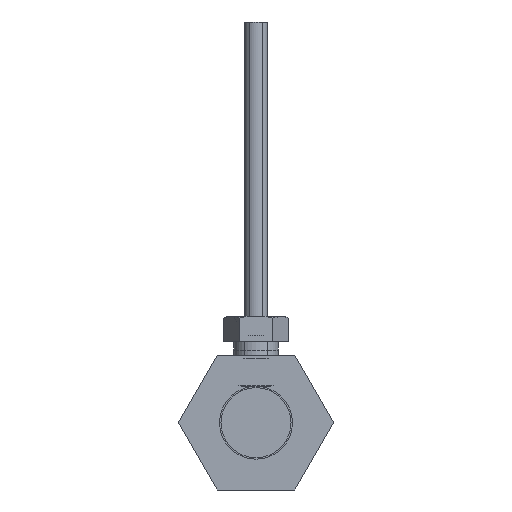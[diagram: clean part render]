
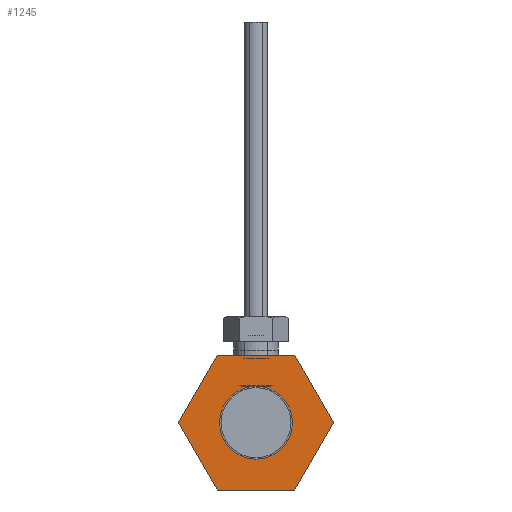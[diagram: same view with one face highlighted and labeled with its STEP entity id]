
A CAD part, front view. The second image highlights one B-rep face of the part: STEP entity #1245.
In plain terms, the highlighted planar face has unit normal (0, -1, 0) as drawn and (-1, 0, 0) by its records, which use the part's own axes.
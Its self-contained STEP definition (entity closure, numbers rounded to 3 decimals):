
#54=LINE('',#2736,#92);
#57=LINE('',#2744,#95);
#60=LINE('',#2750,#98);
#63=LINE('',#2756,#101);
#66=LINE('',#2762,#104);
#69=LINE('',#2767,#107);
#92=VECTOR('',#2263,1000.);
#95=VECTOR('',#2270,1000.);
#98=VECTOR('',#2275,1000.);
#101=VECTOR('',#2280,1000.);
#104=VECTOR('',#2285,1000.);
#107=VECTOR('',#2290,1000.);
#175=PLANE('',#1989);
#390=ORIENTED_EDGE('',*,*,#598,.F.);
#391=ORIENTED_EDGE('',*,*,#597,.F.);
#392=ORIENTED_EDGE('',*,*,#594,.F.);
#393=ORIENTED_EDGE('',*,*,#591,.F.);
#394=ORIENTED_EDGE('',*,*,#588,.F.);
#395=ORIENTED_EDGE('',*,*,#585,.F.);
#396=ORIENTED_EDGE('',*,*,#581,.F.);
#581=EDGE_CURVE('',#702,#703,#54,.T.);
#585=EDGE_CURVE('',#703,#706,#57,.T.);
#588=EDGE_CURVE('',#706,#708,#60,.T.);
#591=EDGE_CURVE('',#708,#710,#63,.T.);
#594=EDGE_CURVE('',#710,#712,#66,.T.);
#597=EDGE_CURVE('',#712,#702,#69,.T.);
#598=EDGE_CURVE('',#713,#713,#796,.T.);
#702=VERTEX_POINT('',#2735);
#703=VERTEX_POINT('',#2737);
#706=VERTEX_POINT('',#2745);
#708=VERTEX_POINT('',#2751);
#710=VERTEX_POINT('',#2757);
#712=VERTEX_POINT('',#2763);
#713=VERTEX_POINT('',#2770);
#796=CIRCLE('',#1990,6.5);
#909=EDGE_LOOP('',(#390));
#910=EDGE_LOOP('',(#391,#392,#393,#394,#395,#396));
#1084=FACE_BOUND('',#909,.T.);
#1085=FACE_BOUND('',#910,.T.);
#1245=ADVANCED_FACE('',(#1084,#1085),#175,.F.);
#1989=AXIS2_PLACEMENT_3D('',#2768,#2291,#2292);
#1990=AXIS2_PLACEMENT_3D('',#2769,#2293,#2294);
#2263=DIRECTION('',(0.,-0.5,0.866));
#2270=DIRECTION('',(0.,-1.,0.));
#2275=DIRECTION('',(0.,-0.5,-0.866));
#2280=DIRECTION('',(0.,0.5,-0.866));
#2285=DIRECTION('',(0.,1.,0.));
#2290=DIRECTION('',(0.,0.5,0.866));
#2291=DIRECTION('',(1.,0.,0.));
#2292=DIRECTION('',(0.,0.,-1.));
#2293=DIRECTION('',(-1.,0.,0.));
#2294=DIRECTION('',(0.,0.,1.));
#2735=CARTESIAN_POINT('',(8.,13.856,0.));
#2736=CARTESIAN_POINT('',(8.,13.856,0.));
#2737=CARTESIAN_POINT('',(8.,6.928,12.));
#2744=CARTESIAN_POINT('',(8.,6.928,12.));
#2745=CARTESIAN_POINT('',(8.,-6.928,12.));
#2750=CARTESIAN_POINT('',(8.,-6.928,12.));
#2751=CARTESIAN_POINT('',(8.,-13.856,0.));
#2756=CARTESIAN_POINT('',(8.,-13.856,0.));
#2757=CARTESIAN_POINT('',(8.,-6.928,-12.));
#2762=CARTESIAN_POINT('',(8.,-6.928,-12.));
#2763=CARTESIAN_POINT('',(8.,6.928,-12.));
#2767=CARTESIAN_POINT('',(8.,6.928,-12.));
#2768=CARTESIAN_POINT('',(8.,0.,15.));
#2769=CARTESIAN_POINT('',(8.,0.,0.));
#2770=CARTESIAN_POINT('',(8.,0.,6.5));
